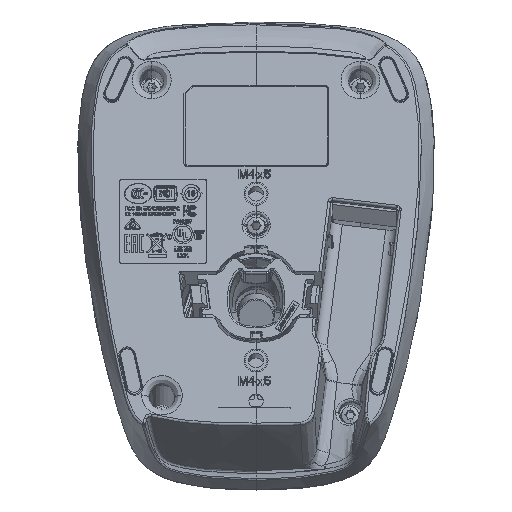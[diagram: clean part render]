
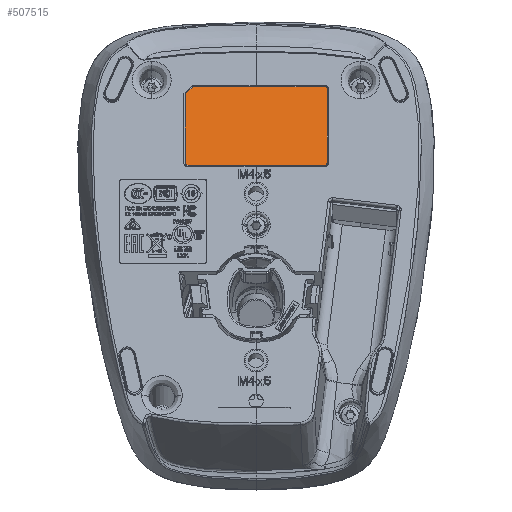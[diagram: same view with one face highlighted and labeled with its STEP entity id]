
A CAD part, front view. The second image highlights one B-rep face of the part: STEP entity #507515.
In plain terms, the highlighted planar face has unit normal (0, -0.966, 0.259).
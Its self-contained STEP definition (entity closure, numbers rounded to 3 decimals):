
#507423=CARTESIAN_POINT('',(18.2,-144.941,38.63));
#507424=DIRECTION('',(0.,0.966,-0.259));
#507425=DIRECTION('',(1.,0.,0.));
#507426=AXIS2_PLACEMENT_3D('',#507423,#507424,#507425);
#507428=DIRECTION('',(-1.,0.,0.));
#507429=VECTOR('',#507428,36.4);
#507430=CARTESIAN_POINT('',(18.2,-145.07,38.147));
#507431=LINE('',#507430,#507429);
#507432=CARTESIAN_POINT('',(-18.2,-144.941,38.63));
#507433=DIRECTION('',(0.,0.966,-0.259));
#507434=DIRECTION('',(0.,-0.259,
-0.966));
#507435=AXIS2_PLACEMENT_3D('',#507432,#507433,#507434);
#507437=DIRECTION('',(0.,0.259,0.966));
#507438=VECTOR('',#507437,18.693);
#507439=CARTESIAN_POINT('',(-18.7,-144.941,38.63));
#507440=LINE('',#507439,#507438);
#507441=CARTESIAN_POINT('',(-18.2,-140.103,56.686));
#507442=DIRECTION('',(0.,0.966,-0.259));
#507443=DIRECTION('',(-1.,0.,0.));
#507444=AXIS2_PLACEMENT_3D('',#507441,#507442,#507443);
#507446=DIRECTION('',(0.707,0.183,0.683));
#507447=VECTOR('',#507446,2.414);
#507448=CARTESIAN_POINT('',(-18.554,-140.011,
57.027));
#507449=LINE('',#507448,#507447);
#507450=CARTESIAN_POINT('',(-16.493,-139.661,
58.335));
#507451=DIRECTION('',(0.,0.966,-0.259));
#507452=DIRECTION('',(-0.707,0.183,0.683));
#507453=AXIS2_PLACEMENT_3D('',#507450,#507451,#507452);
#507455=DIRECTION('',(1.,0.,0.));
#507456=VECTOR('',#507455,34.693);
#507457=CARTESIAN_POINT('',(-16.493,-139.531,
58.818));
#507458=LINE('',#507457,#507456);
#507459=CARTESIAN_POINT('',(18.2,-139.661,58.335));
#507460=DIRECTION('',(0.,0.966,-0.259));
#507461=DIRECTION('',(0.,0.259,0.966));
#507462=AXIS2_PLACEMENT_3D('',#507459,#507460,#507461);
#507464=DIRECTION('',(0.,-0.259,-0.966));
#507465=VECTOR('',#507464,20.4);
#507466=CARTESIAN_POINT('',(18.7,-139.661,58.335));
#507467=LINE('',#507466,#507465);
#507468=CARTESIAN_POINT('',(18.2,-145.07,38.147));
#507469=CARTESIAN_POINT('',(18.7,-144.941,38.63));
#507470=VERTEX_POINT('',#507468);
#507471=VERTEX_POINT('',#507469);
#507472=CARTESIAN_POINT('',(18.7,-139.661,58.335));
#507473=CARTESIAN_POINT('',(18.2,-139.531,58.818));
#507474=VERTEX_POINT('',#507472);
#507475=VERTEX_POINT('',#507473);
#507476=CARTESIAN_POINT('',(-18.7,-144.941,38.63));
#507477=CARTESIAN_POINT('',(-18.2,-145.07,38.147));
#507478=VERTEX_POINT('',#507476);
#507479=VERTEX_POINT('',#507477);
#507480=CARTESIAN_POINT('',(-18.554,-140.011,
57.027));
#507481=CARTESIAN_POINT('',(-18.7,-140.103,56.686));
#507482=VERTEX_POINT('',#507480);
#507483=VERTEX_POINT('',#507481);
#507484=CARTESIAN_POINT('',(-16.493,-139.531,
58.818));
#507485=CARTESIAN_POINT('',(-16.846,-139.569,
58.676));
#507486=VERTEX_POINT('',#507484);
#507487=VERTEX_POINT('',#507485);
#507488=CARTESIAN_POINT('',(27.5,-143.077,45.584));
#507489=DIRECTION('',(0.,-0.966,0.259));
#507490=DIRECTION('',(0.,-0.259,-0.966));
#507491=AXIS2_PLACEMENT_3D('',#507488,#507489,#507490);
#507492=PLANE('',#507491);
#507494=ORIENTED_EDGE('',*,*,#507493,.T.);
#507496=ORIENTED_EDGE('',*,*,#507495,.T.);
#507498=ORIENTED_EDGE('',*,*,#507497,.T.);
#507500=ORIENTED_EDGE('',*,*,#507499,.T.);
#507502=ORIENTED_EDGE('',*,*,#507501,.T.);
#507504=ORIENTED_EDGE('',*,*,#507503,.T.);
#507506=ORIENTED_EDGE('',*,*,#507505,.T.);
#507508=ORIENTED_EDGE('',*,*,#507507,.T.);
#507510=ORIENTED_EDGE('',*,*,#507509,.T.);
#507512=ORIENTED_EDGE('',*,*,#507511,.T.);
#507513=EDGE_LOOP('',(#507494,#507496,#507498,#507500,#507502,#507504,#507506,
#507508,#507510,#507512));
#507514=FACE_OUTER_BOUND('',#507513,.F.);
#507515=ADVANCED_FACE('',(#507514),#507492,.T.);
#507427=CIRCLE('',#507426,0.5);
#507436=CIRCLE('',#507435,0.5);
#507445=CIRCLE('',#507444,0.5);
#507454=CIRCLE('',#507453,0.5);
#507463=CIRCLE('',#507462,0.5);
#507493=EDGE_CURVE('',#507471,#507470,#507427,.T.);
#507495=EDGE_CURVE('',#507470,#507479,#507431,.T.);
#507497=EDGE_CURVE('',#507479,#507478,#507436,.T.);
#507499=EDGE_CURVE('',#507478,#507483,#507440,.T.);
#507501=EDGE_CURVE('',#507483,#507482,#507445,.T.);
#507503=EDGE_CURVE('',#507482,#507487,#507449,.T.);
#507505=EDGE_CURVE('',#507487,#507486,#507454,.T.);
#507507=EDGE_CURVE('',#507486,#507475,#507458,.T.);
#507509=EDGE_CURVE('',#507475,#507474,#507463,.T.);
#507511=EDGE_CURVE('',#507474,#507471,#507467,.T.);
